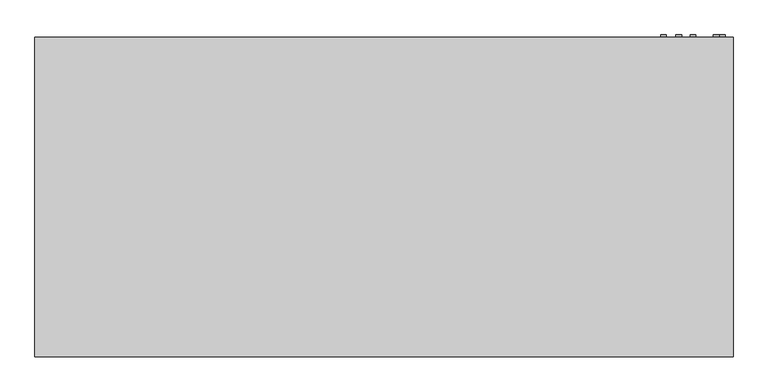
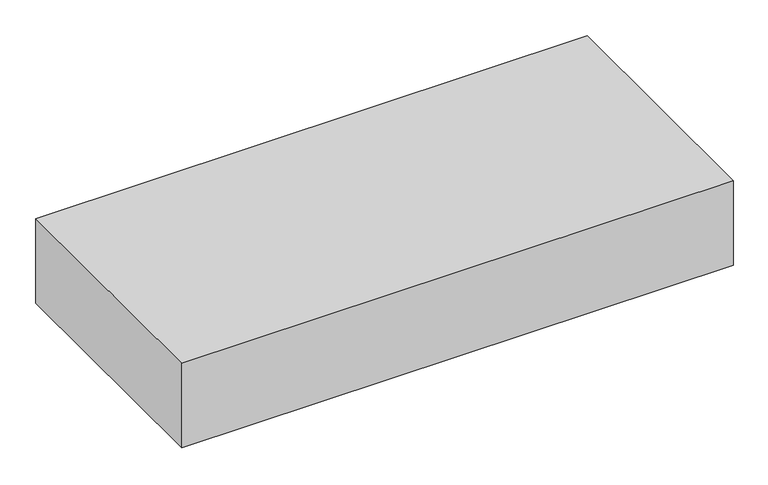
"""IFC4 building model written with IfcOpenShell, lengths in millimetres: proxy geometry, Exposed_Horizontal_Fan_Coil_Unit_-_42CGB_-_CARRIER_-_4-Pipe_BS-BR_RH_2022 : Size 10 - 277v/60Hz/1Ph - 4/1 Coil."""

from ifc_helpers import new_model, si_unit, point, frame, frame_2d, origin, place, context, project, spatial, polyline, circle_curve, trimmed, segment, composite_curve, outline, extrude, source, transform, mapped, element, save


def mechanical_equipment_b96b5262(model_context):
    return source(origin(), model_context, "Body", "SweptSolid", [
        extrude(outline(polyline([(814.3875, -433.3875), (814.3875, -604.8375), (-509.5875, -604.8375), (-509.5875, -433.3875), (814.3875, -433.3875)])), frame((0.0, 0.0, -311.15), z_axis=(0.0, 0.0, 1.0), x_axis=(1.0, 0.0, 0.0)), (0.0, 0.0, 1.0), 6.35),
        extrude(outline(composite_curve([segment(trimmed(circle_curve(frame_2d((-85.725, 1063.625)), 7.9375), [point((-85.725, 1071.5625))], [point((-85.725, 1055.6875))], False, "CARTESIAN"), True, "CONTINUOUS"), segment(trimmed(circle_curve(frame_2d((-85.725, 1063.625)), 7.9375), [point((-85.725, 1055.6875))], [point((-85.725, 1071.5625))], False, "CARTESIAN"), True, "CONTINUOUS")], self_intersect=False)), frame((0.0, 192.0875, 0.0), z_axis=(0.0, 1.0, 0.0), x_axis=(0.0, 0.0, 1.0)), (0.0, 0.0, 1.0), 6.35),
        extrude(outline(composite_curve([segment(trimmed(circle_curve(frame_2d((-44.45, 984.25)), 7.9375), [point((-44.45, 992.1875))], [point((-44.45, 976.3125))], False, "CARTESIAN"), True, "CONTINUOUS"), segment(trimmed(circle_curve(frame_2d((-44.45, 984.25)), 7.9375), [point((-44.45, 976.3125))], [point((-44.45, 992.1875))], False, "CARTESIAN"), True, "CONTINUOUS")], self_intersect=False)), frame((0.0, 192.0875, 0.0), z_axis=(0.0, 1.0, 0.0), x_axis=(0.0, 0.0, 1.0)), (0.0, 0.0, 1.0), 6.35),
        extrude(outline(composite_curve([segment(trimmed(circle_curve(frame_2d((-95.25, 946.15)), 7.9375), [point((-95.25, 954.0875))], [point((-95.25, 938.2125))], False, "CARTESIAN"), True, "CONTINUOUS"), segment(trimmed(circle_curve(frame_2d((-95.25, 946.15)), 7.9375), [point((-95.25, 938.2125))], [point((-95.25, 954.0875))], False, "CARTESIAN"), True, "CONTINUOUS")], self_intersect=False)), frame((0.0, 192.0875, 0.0), z_axis=(0.0, 1.0, 0.0), x_axis=(0.0, 0.0, 1.0)), (0.0, 0.0, 1.0), 6.35),
        extrude(outline(composite_curve([segment(trimmed(circle_curve(frame_2d((-60.325, 904.875)), 7.9375), [point((-60.325, 912.8125))], [point((-60.325, 896.9375))], False, "CARTESIAN"), True, "CONTINUOUS"), segment(trimmed(circle_curve(frame_2d((-60.325, 904.875)), 7.9375), [point((-60.325, 896.9375))], [point((-60.325, 912.8125))], False, "CARTESIAN"), True, "CONTINUOUS")], self_intersect=False)), frame((0.0, 192.0875, 0.0), z_axis=(0.0, 1.0, 0.0), x_axis=(0.0, 0.0, 1.0)), (0.0, 0.0, 1.0), 6.35),
        extrude(outline(composite_curve([segment(trimmed(circle_curve(frame_2d((-260.35, 1047.75)), 9.525), [point((-260.35, 1057.275))], [point((-260.35, 1038.225))], False, "CARTESIAN"), True, "CONTINUOUS"), segment(trimmed(circle_curve(frame_2d((-260.35, 1047.75)), 9.525), [point((-260.35, 1038.225))], [point((-260.35, 1057.275))], False, "CARTESIAN"), True, "CONTINUOUS")], self_intersect=False)), frame((0.0, 192.0875, 0.0), z_axis=(0.0, 1.0, 0.0), x_axis=(0.0, 0.0, 1.0)), (0.0, 0.0, 1.0), 6.35),
        extrude(outline(polyline([(-787.4, 192.0875), (1092.2, 192.0875), (1092.2, -668.3375), (-787.4, -668.3375), (-787.4, 192.0875)])), frame((0.0, 0.0, -304.8), z_axis=(0.0, 0.0, 1.0), x_axis=(1.0, 0.0, 0.0)), (0.0, 0.0, 1.0), 304.8),
        extrude(outline(polyline([(844.55, 115.8875), (844.55, -138.1125), (-539.75, -138.1125), (-539.75, 115.8875), (844.55, 115.8875)])), frame((0.0, 0.0, -311.15), z_axis=(0.0, 0.0, 1.0), x_axis=(1.0, 0.0, 0.0)), (0.0, 0.0, 1.0), 6.35),
    ])


if __name__ == "__main__":
    model = new_model("IFC4")
    model_context = context("Model", 3, world=origin())
    ifc_project = project(units=[si_unit("LENGTHUNIT", "METRE", prefix="MILLI")], contexts=[model_context])
    site = spatial("IfcSite", under=ifc_project)
    building = spatial("IfcBuilding", under=site)
    placement = place(None, origin())
    mechanical_equipment_shape = mechanical_equipment_b96b5262(model_context)
    element("IfcBuildingElementProxy", 1, Name="Exposed_Horizontal_Fan_Coil_Unit_-_42CGB_-_CARRIER_-_4-Pipe_BS-BR_RH_2022 : Size 10 - 277v/60Hz/1Ph - 4/1 Coil", ObjectType="Exposed_Horizontal_Fan_Coil_Unit_-_42CGB_-_CARRIER_-_4-Pipe_BS-BR_RH_2022 : Size 10 - 277v/60Hz/1Ph - 4/1 Coil", at=placement, inside=building, context=model_context, shape_type="MappedRepresentation", body=[
        mapped(mechanical_equipment_shape, transform((0.0, 0.0, 0.0), x_axis=(1.0, 0.0, 0.0), y_axis=(0.0, 1.0, 0.0), z_axis=(0.0, 0.0, 1.0))),
    ])
    save(model, "model.ifc")
